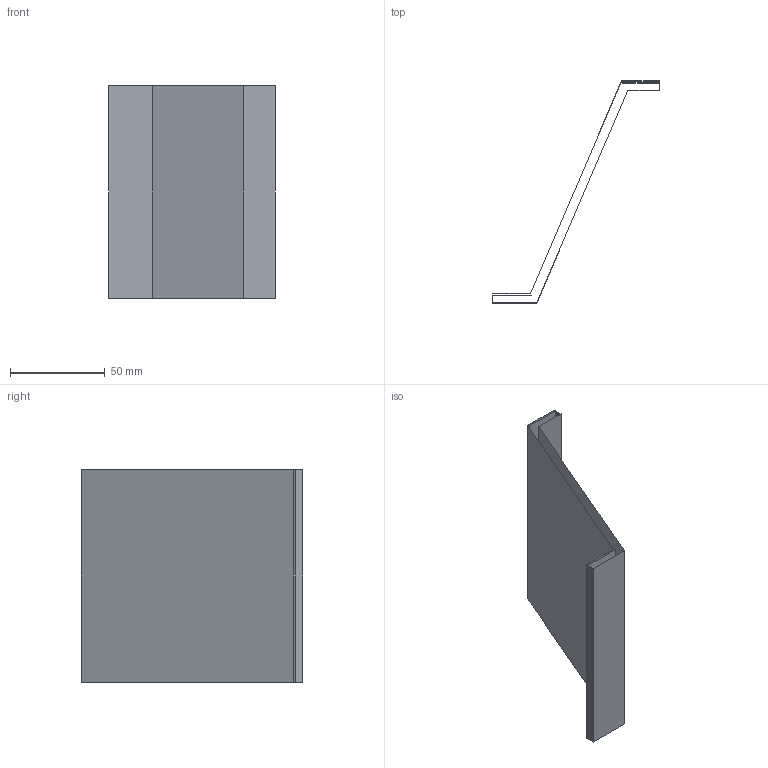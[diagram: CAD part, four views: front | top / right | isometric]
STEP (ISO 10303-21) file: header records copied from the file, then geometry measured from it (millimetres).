
FILE_DESCRIPTION(('CATIA V5 STEP Exchange'),'2;1');
FILE_NAME('C:\_Andres\UNIVERSIDAD\IQS\ASIGNATURAS\DAO\EXF\EXF-16172c\2inicio\Esteba_Torres_Ej06_v12.stp','2017-03-05T21:01:24+00:00',('none'),('none'),'CATIA Version 5-6 Release 2014 SP1 HF18','CATIA V5 STEP AP203','none');
FILE_SCHEMA(('CONFIG_CONTROL_DESIGN'));
Length unit declared in the file: millimetre
Products named in the file (1): Esteba_Torres_Ej06_v12
Bounding box: 88 x 117 x 112 mm (x, y, z)
Surface area: 41630.9 mm2 (no closed solid volume)
Topology: 0 solids, 2 shells, 10 faces, 42 edges, 36 vertices
Faces by surface type: plane 10
Entity records: 461 total; most frequent: CARTESIAN_POINT 100, DIRECTION 59, ORIENTED_EDGE 40, VECTOR 39, LINE 39, EDGE_CURVE 32, VERTEX_POINT 24, AXIS2_PLACEMENT_3D 11
